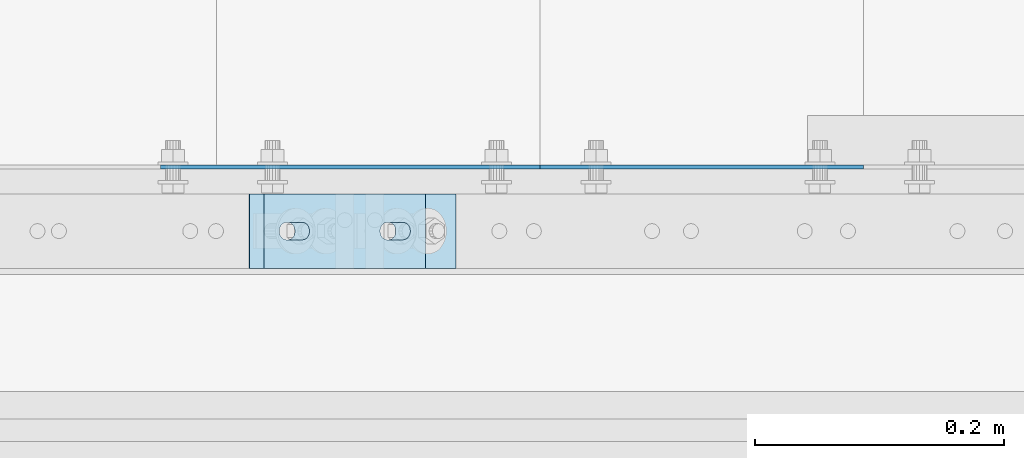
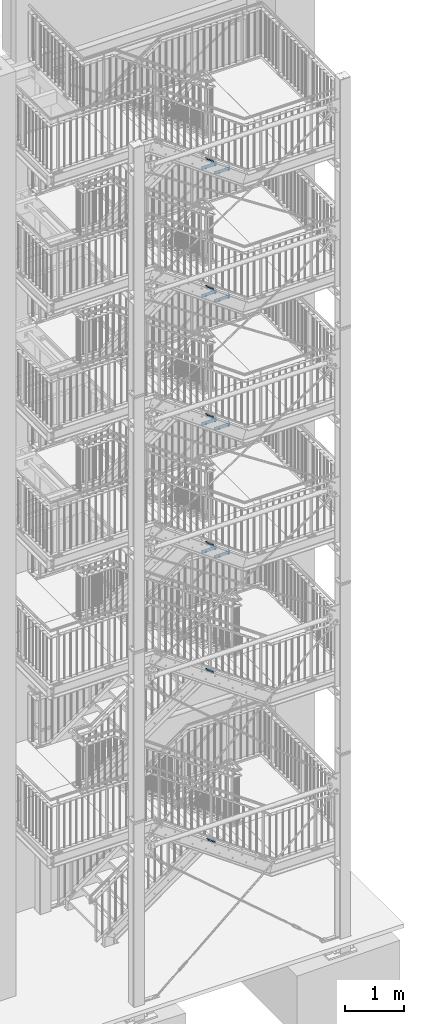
# One storey, part 167 of 817: 14 plates, 28 openings.
"""IFC2X3 building model written with IfcOpenShell, lengths in millimetres."""

from ifc_helpers import new_model, entity, si_unit, converted_unit, point, frame, frame_2d, origin, origin_with_axes, origin_2d_with_axis, place, context, project, spatial, polyline, circle_curve, line_curve, trimmed, segment, composite_curve, circle, outline, extrude, material, layer, layer_set, element, save


model = new_model("IFC2X3")

# Units and contexts
model_context = context("Model", 3, precision=1e-09, world=origin_with_axes())
ifc_project = project(units=[si_unit("LENGTHUNIT", "METRE", prefix="MILLI"), si_unit("AREAUNIT", "SQUARE_METRE"), si_unit("VOLUMEUNIT", "CUBIC_METRE"), converted_unit("PLANEANGLEUNIT", "DEGREE", entity("IfcPlaneAngleMeasure", 0.01745329), si_unit("PLANEANGLEUNIT", "RADIAN"), dimensions=[0, 0, 0, 0, 0, 0, 0])], contexts=[model_context])

# Site, building, storey
site_placement = place(None, origin_with_axes())
site = spatial("IfcSite", under=ifc_project, at=site_placement, Name="Cnopf'sche Kinderklinik", CompositionType="ELEMENT")
building_placement = place(site_placement, origin_with_axes())
building = spatial("IfcBuilding", under=site, at=building_placement, Name="Struktur 1", CompositionType="ELEMENT")
storey_placement = place(building_placement, origin_with_axes())
storey = spatial("IfcBuildingStorey", under=building, at=storey_placement, Name="Default Storey", CompositionType="ELEMENT", Elevation=0.0)

# Plate, openings
ifc_material = material(Name="S235JR")
ifc_layer_1 = layer(ifc_material, 3.0)
ifc_layer_set_1 = layer_set([ifc_layer_1], Name="S235JR")
plate_1_placement = place(None, frame((6536.713402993, 4576.736971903, 11680.7857145), z_axis=(0.0, 1.0, 0.0), x_axis=(0.0, 0.0, -1.0)))
plate_1 = element("IfcPlate", 1, at=plate_1_placement, inside=storey, material=ifc_layer_set_1, Name="Grate_Step#9", ObjectType="Grate_Step#9", context=model_context, shape_type="SweptSolid", body=[
    extrude(outline(polyline([(0.0, 0.0), (70.0, 0.0), (70.0, 275.0), (40.0, 305.0), (0.0, 305.0), (0.0, 0.0)])), origin_with_axes(), (0.0, 0.0, 1.0), 3.0),
])
opening_1_placement = place(plate_1_placement, frame((55.0, 215.0, 3.5), z_axis=(0.0, 0.0, -1.0), x_axis=(0.0, 1.0, 0.0)))
element("IfcOpeningElement", 2, at=opening_1_placement, cuts=plate_1, ObjectType="Opening", context=model_context, shape_type="SweptSolid", body=[
    extrude(outline(composite_curve([segment(trimmed(line_curve((-9.5, -7.001), (1.0, 0.0), 19.0), [point((-9.5, -7.001))], [point((9.5, -7.001))], True, "CARTESIAN"), True, "CONTINUOUS"), segment(trimmed(circle_curve(frame_2d((9.5, 0.0), x_axis=(1.0, 0.0)), 7.001), [point((9.5, -7.001))], [point((9.5, 7.001))], True, "CARTESIAN"), True, "CONTINUOUS"), segment(trimmed(line_curve((9.5, 7.001), (-1.0, 0.0), 19.0), [point((9.5, 7.001))], [point((-9.5, 7.001))], True, "CARTESIAN"), True, "CONTINUOUS"), segment(trimmed(circle_curve(frame_2d((-9.5, 0.0), x_axis=(1.0, 0.0)), 7.001), [point((-9.5, 7.001))], [point((-9.5, -7.001))], True, "CARTESIAN"), True, "CONTINUOUS")], self_intersect=False)), origin(), (0.0, 0.0, 1.0), 4.0),
])
opening_2_placement = place(plate_1_placement, frame((55.0, 35.0, 3.5), z_axis=(0.0, 0.0, -1.0), x_axis=(0.0, 1.0, 0.0)))
element("IfcOpeningElement", 3, at=opening_2_placement, cuts=plate_1, ObjectType="Opening", context=model_context, shape_type="SweptSolid", body=[
    extrude(circle(Radius=7.001, at=origin_2d_with_axis()), origin(), (0.0, 0.0, 1.0), 4.0),
])

plate_2_placement = place(None, frame((6796.713402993, 4576.736971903, 11493.1428574), z_axis=(0.0, 1.0, 0.0), x_axis=(0.0, 0.0, -1.0)))
plate_2 = element("IfcPlate", 4, at=plate_2_placement, inside=storey, material=ifc_layer_set_1, Name="Grate_Step#2", ObjectType="Grate_Step#2", context=model_context, shape_type="SweptSolid", body=[
    extrude(outline(polyline([(0.0, 0.0), (70.0, 0.0), (70.0, 275.0), (40.0, 305.0), (0.0, 305.0), (0.0, 0.0)])), origin_with_axes(), (0.0, 0.0, 1.0), 3.0),
])
opening_3_placement = place(plate_2_placement, frame((55.0, 35.0, 3.5), z_axis=(0.0, 0.0, -1.0), x_axis=(0.0, 1.0, 0.0)))
element("IfcOpeningElement", 5, at=opening_3_placement, cuts=plate_2, ObjectType="Opening", context=model_context, shape_type="SweptSolid", body=[
    extrude(circle(Radius=7.001, at=origin_2d_with_axis()), origin(), (0.0, 0.0, 1.0), 4.0),
])
opening_4_placement = place(plate_2_placement, frame((55.0, 215.0, 3.5), z_axis=(0.0, 0.0, -1.0), x_axis=(0.0, 1.0, 0.0)))
element("IfcOpeningElement", 6, at=opening_4_placement, cuts=plate_2, ObjectType="Opening", context=model_context, shape_type="SweptSolid", body=[
    extrude(outline(composite_curve([segment(trimmed(line_curve((-9.5, -7.001), (1.0, 0.0), 19.0), [point((-9.5, -7.001))], [point((9.5, -7.001))], True, "CARTESIAN"), True, "CONTINUOUS"), segment(trimmed(circle_curve(frame_2d((9.5, 0.0), x_axis=(1.0, 0.0)), 7.001), [point((9.5, -7.001))], [point((9.5, 7.001))], True, "CARTESIAN"), True, "CONTINUOUS"), segment(trimmed(line_curve((9.5, 7.001), (-1.0, 0.0), 19.0), [point((9.5, 7.001))], [point((-9.5, 7.001))], True, "CARTESIAN"), True, "CONTINUOUS"), segment(trimmed(circle_curve(frame_2d((-9.5, 0.0), x_axis=(1.0, 0.0)), 7.001), [point((-9.5, 7.001))], [point((-9.5, -7.001))], True, "CARTESIAN"), True, "CONTINUOUS")], self_intersect=False)), origin(), (0.0, 0.0, 1.0), 4.0),
])

plate_3_placement = place(None, frame((6796.713402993, 4576.736971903, 14124.7142858), z_axis=(0.0, 1.0, 0.0), x_axis=(0.0, 0.0, -1.0)))
plate_3 = element("IfcPlate", 7, at=plate_3_placement, inside=storey, material=ifc_layer_set_1, Name="Grate_Step#2", ObjectType="Grate_Step#2", context=model_context, shape_type="SweptSolid", body=[
    extrude(outline(polyline([(0.0, 0.0), (70.0, 0.0), (70.0, 275.0), (40.0, 305.0), (0.0, 305.0), (0.0, 0.0)])), origin_with_axes(), (0.0, 0.0, 1.0), 3.0),
])
opening_5_placement = place(plate_3_placement, frame((55.0, 35.0, 3.5), z_axis=(0.0, 0.0, -1.0), x_axis=(0.0, 1.0, 0.0)))
element("IfcOpeningElement", 8, at=opening_5_placement, cuts=plate_3, ObjectType="Opening", context=model_context, shape_type="SweptSolid", body=[
    extrude(circle(Radius=7.001, at=origin_2d_with_axis()), origin(), (0.0, 0.0, 1.0), 4.0),
])
opening_6_placement = place(plate_3_placement, frame((55.0, 215.0, 3.5), z_axis=(0.0, 0.0, -1.0), x_axis=(0.0, 1.0, 0.0)))
element("IfcOpeningElement", 9, at=opening_6_placement, cuts=plate_3, ObjectType="Opening", context=model_context, shape_type="SweptSolid", body=[
    extrude(outline(composite_curve([segment(trimmed(line_curve((-9.5, -7.001), (1.0, 0.0), 19.0), [point((-9.5, -7.001))], [point((9.5, -7.001))], True, "CARTESIAN"), True, "CONTINUOUS"), segment(trimmed(circle_curve(frame_2d((9.5, 0.0), x_axis=(1.0, 0.0)), 7.001), [point((9.5, -7.001))], [point((9.5, 7.001))], True, "CARTESIAN"), True, "CONTINUOUS"), segment(trimmed(line_curve((9.5, 7.001), (-1.0, 0.0), 19.0), [point((9.5, 7.001))], [point((-9.5, 7.001))], True, "CARTESIAN"), True, "CONTINUOUS"), segment(trimmed(circle_curve(frame_2d((-9.5, 0.0), x_axis=(1.0, 0.0)), 7.001), [point((-9.5, 7.001))], [point((-9.5, -7.001))], True, "CARTESIAN"), True, "CONTINUOUS")], self_intersect=False)), origin(), (0.0, 0.0, 1.0), 4.0),
])

plate_4_placement = place(None, frame((6536.713402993, 4576.736971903, 14312.9285715), z_axis=(0.0, 1.0, 0.0), x_axis=(0.0, 0.0, -1.0)))
plate_4 = element("IfcPlate", 10, at=plate_4_placement, inside=storey, material=ifc_layer_set_1, Name="Grate_Step#9", ObjectType="Grate_Step#9", context=model_context, shape_type="SweptSolid", body=[
    extrude(outline(polyline([(0.0, 0.0), (70.0, 0.0), (70.0, 275.0), (40.0, 305.0), (0.0, 305.0), (0.0, 0.0)])), origin_with_axes(), (0.0, 0.0, 1.0), 3.0),
])
opening_7_placement = place(plate_4_placement, frame((55.0, 215.0, 3.5), z_axis=(0.0, 0.0, -1.0), x_axis=(0.0, 1.0, 0.0)))
element("IfcOpeningElement", 11, at=opening_7_placement, cuts=plate_4, ObjectType="Opening", context=model_context, shape_type="SweptSolid", body=[
    extrude(outline(composite_curve([segment(trimmed(line_curve((-9.5, -7.001), (1.0, 0.0), 19.0), [point((-9.5, -7.001))], [point((9.5, -7.001))], True, "CARTESIAN"), True, "CONTINUOUS"), segment(trimmed(circle_curve(frame_2d((9.5, 0.0), x_axis=(1.0, 0.0)), 7.001), [point((9.5, -7.001))], [point((9.5, 7.001))], True, "CARTESIAN"), True, "CONTINUOUS"), segment(trimmed(line_curve((9.5, 7.001), (-1.0, 0.0), 19.0), [point((9.5, 7.001))], [point((-9.5, 7.001))], True, "CARTESIAN"), True, "CONTINUOUS"), segment(trimmed(circle_curve(frame_2d((-9.5, 0.0), x_axis=(1.0, 0.0)), 7.001), [point((-9.5, 7.001))], [point((-9.5, -7.001))], True, "CARTESIAN"), True, "CONTINUOUS")], self_intersect=False)), origin(), (0.0, 0.0, 1.0), 4.0),
])
opening_8_placement = place(plate_4_placement, frame((55.0, 35.0, 3.5), z_axis=(0.0, 0.0, -1.0), x_axis=(0.0, 1.0, 0.0)))
element("IfcOpeningElement", 12, at=opening_8_placement, cuts=plate_4, ObjectType="Opening", context=model_context, shape_type="SweptSolid", body=[
    extrude(circle(Radius=7.001, at=origin_2d_with_axis()), origin(), (0.0, 0.0, 1.0), 4.0),
])

plate_5_placement = place(None, frame((6796.713402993, 4576.736971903, 16751.1428574), z_axis=(0.0, 1.0, 0.0), x_axis=(0.0, 0.0, -1.0)))
plate_5 = element("IfcPlate", 13, at=plate_5_placement, inside=storey, material=ifc_layer_set_1, Name="Grate_Step#2", ObjectType="Grate_Step#2", context=model_context, shape_type="SweptSolid", body=[
    extrude(outline(polyline([(0.0, 0.0), (70.0, 0.0), (70.0, 275.0), (40.0, 305.0), (0.0, 305.0), (0.0, 0.0)])), origin_with_axes(), (0.0, 0.0, 1.0), 3.0),
])
opening_9_placement = place(plate_5_placement, frame((55.0, 215.0, 3.5), z_axis=(0.0, 0.0, -1.0), x_axis=(0.0, 1.0, 0.0)))
element("IfcOpeningElement", 14, at=opening_9_placement, cuts=plate_5, ObjectType="Opening", context=model_context, shape_type="SweptSolid", body=[
    extrude(outline(composite_curve([segment(trimmed(line_curve((-9.5, -7.001), (1.0, 0.0), 19.0), [point((-9.5, -7.001))], [point((9.5, -7.001))], True, "CARTESIAN"), True, "CONTINUOUS"), segment(trimmed(circle_curve(frame_2d((9.5, 0.0), x_axis=(1.0, 0.0)), 7.001), [point((9.5, -7.001))], [point((9.5, 7.001))], True, "CARTESIAN"), True, "CONTINUOUS"), segment(trimmed(line_curve((9.5, 7.001), (-1.0, 0.0), 19.0), [point((9.5, 7.001))], [point((-9.5, 7.001))], True, "CARTESIAN"), True, "CONTINUOUS"), segment(trimmed(circle_curve(frame_2d((-9.5, 0.0), x_axis=(1.0, 0.0)), 7.001), [point((-9.5, 7.001))], [point((-9.5, -7.001))], True, "CARTESIAN"), True, "CONTINUOUS")], self_intersect=False)), origin(), (0.0, 0.0, 1.0), 4.0),
])
opening_10_placement = place(plate_5_placement, frame((55.0, 35.0, 3.5), z_axis=(0.0, 0.0, -1.0), x_axis=(0.0, 1.0, 0.0)))
element("IfcOpeningElement", 15, at=opening_10_placement, cuts=plate_5, ObjectType="Opening", context=model_context, shape_type="SweptSolid", body=[
    extrude(circle(Radius=7.001, at=origin_2d_with_axis()), origin(), (0.0, 0.0, 1.0), 4.0),
])

plate_6_placement = place(None, frame((6536.713402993, 4576.736971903, 16938.2857145), z_axis=(0.0, 1.0, 0.0), x_axis=(0.0, 0.0, -1.0)))
plate_6 = element("IfcPlate", 16, at=plate_6_placement, inside=storey, material=ifc_layer_set_1, Name="Grate_Step#9", ObjectType="Grate_Step#9", context=model_context, shape_type="SweptSolid", body=[
    extrude(outline(polyline([(0.0, 0.0), (70.0, 0.0), (70.0, 275.0), (40.0, 305.0), (0.0, 305.0), (0.0, 0.0)])), origin_with_axes(), (0.0, 0.0, 1.0), 3.0),
])
opening_11_placement = place(plate_6_placement, frame((55.0, 35.0, 3.5), z_axis=(0.0, 0.0, -1.0), x_axis=(0.0, 1.0, 0.0)))
element("IfcOpeningElement", 17, at=opening_11_placement, cuts=plate_6, ObjectType="Opening", context=model_context, shape_type="SweptSolid", body=[
    extrude(circle(Radius=7.001, at=origin_2d_with_axis()), origin(), (0.0, 0.0, 1.0), 4.0),
])
opening_12_placement = place(plate_6_placement, frame((55.0, 215.0, 3.5), z_axis=(0.0, 0.0, -1.0), x_axis=(0.0, 1.0, 0.0)))
element("IfcOpeningElement", 18, at=opening_12_placement, cuts=plate_6, ObjectType="Opening", context=model_context, shape_type="SweptSolid", body=[
    extrude(outline(composite_curve([segment(trimmed(line_curve((-9.5, -7.001), (1.0, 0.0), 19.0), [point((-9.5, -7.001))], [point((9.5, -7.001))], True, "CARTESIAN"), True, "CONTINUOUS"), segment(trimmed(circle_curve(frame_2d((9.5, 0.0), x_axis=(1.0, 0.0)), 7.001), [point((9.5, -7.001))], [point((9.5, 7.001))], True, "CARTESIAN"), True, "CONTINUOUS"), segment(trimmed(line_curve((9.5, 7.001), (-1.0, 0.0), 19.0), [point((9.5, 7.001))], [point((-9.5, 7.001))], True, "CARTESIAN"), True, "CONTINUOUS"), segment(trimmed(circle_curve(frame_2d((-9.5, 0.0), x_axis=(1.0, 0.0)), 7.001), [point((-9.5, 7.001))], [point((-9.5, -7.001))], True, "CARTESIAN"), True, "CONTINUOUS")], self_intersect=False)), origin(), (0.0, 0.0, 1.0), 4.0),
])

plate_7_placement = place(None, frame((6796.713402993, 4576.736971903, 8864.0), z_axis=(0.0, 1.0, 0.0), x_axis=(0.0, 0.0, -1.0)))
plate_7 = element("IfcPlate", 19, at=plate_7_placement, inside=storey, material=ifc_layer_set_1, Name="Grate_Step#2", ObjectType="Grate_Step#2", context=model_context, shape_type="SweptSolid", body=[
    extrude(outline(polyline([(0.0, 0.0), (70.0, 0.0), (70.0, 275.0), (40.0, 305.0), (0.0, 305.0), (0.0, 0.0)])), origin_with_axes(), (0.0, 0.0, 1.0), 3.0),
])
opening_13_placement = place(plate_7_placement, frame((55.0, 215.0, 3.5), z_axis=(0.0, 0.0, -1.0), x_axis=(0.0, 1.0, 0.0)))
element("IfcOpeningElement", 20, at=opening_13_placement, cuts=plate_7, ObjectType="Opening", context=model_context, shape_type="SweptSolid", body=[
    extrude(outline(composite_curve([segment(trimmed(line_curve((-9.5, -7.001), (1.0, 0.0), 19.0), [point((-9.5, -7.001))], [point((9.5, -7.001))], True, "CARTESIAN"), True, "CONTINUOUS"), segment(trimmed(circle_curve(frame_2d((9.5, 0.0), x_axis=(1.0, 0.0)), 7.001), [point((9.5, -7.001))], [point((9.5, 7.001))], True, "CARTESIAN"), True, "CONTINUOUS"), segment(trimmed(line_curve((9.5, 7.001), (-1.0, 0.0), 19.0), [point((9.5, 7.001))], [point((-9.5, 7.001))], True, "CARTESIAN"), True, "CONTINUOUS"), segment(trimmed(circle_curve(frame_2d((-9.5, 0.0), x_axis=(1.0, 0.0)), 7.001), [point((-9.5, 7.001))], [point((-9.5, -7.001))], True, "CARTESIAN"), True, "CONTINUOUS")], self_intersect=False)), origin(), (0.0, 0.0, 1.0), 4.0),
])
opening_14_placement = place(plate_7_placement, frame((55.0, 35.0, 3.5), z_axis=(0.0, 0.0, -1.0), x_axis=(0.0, 1.0, 0.0)))
element("IfcOpeningElement", 21, at=opening_14_placement, cuts=plate_7, ObjectType="Opening", context=model_context, shape_type="SweptSolid", body=[
    extrude(circle(Radius=7.001, at=origin_2d_with_axis()), origin(), (0.0, 0.0, 1.0), 4.0),
])

plate_8_placement = place(None, frame((6536.713402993, 4576.736971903, 9052.0), z_axis=(0.0, 1.0, 0.0), x_axis=(0.0, 0.0, -1.0)))
plate_8 = element("IfcPlate", 22, at=plate_8_placement, inside=storey, material=ifc_layer_set_1, Name="Grate_Step#9", ObjectType="Grate_Step#9", context=model_context, shape_type="SweptSolid", body=[
    extrude(outline(polyline([(0.0, 0.0), (70.0, 0.0), (70.0, 275.0), (40.0, 305.0), (0.0, 305.0), (0.0, 0.0)])), origin_with_axes(), (0.0, 0.0, 1.0), 3.0),
])
opening_15_placement = place(plate_8_placement, frame((55.0, 215.0, 3.5), z_axis=(0.0, 0.0, -1.0), x_axis=(0.0, 1.0, 0.0)))
element("IfcOpeningElement", 23, at=opening_15_placement, cuts=plate_8, ObjectType="Opening", context=model_context, shape_type="SweptSolid", body=[
    extrude(outline(composite_curve([segment(trimmed(line_curve((-9.5, -7.001), (1.0, 0.0), 19.0), [point((-9.5, -7.001))], [point((9.5, -7.001))], True, "CARTESIAN"), True, "CONTINUOUS"), segment(trimmed(circle_curve(frame_2d((9.5, 0.0), x_axis=(1.0, 0.0)), 7.001), [point((9.5, -7.001))], [point((9.5, 7.001))], True, "CARTESIAN"), True, "CONTINUOUS"), segment(trimmed(line_curve((9.5, 7.001), (-1.0, 0.0), 19.0), [point((9.5, 7.001))], [point((-9.5, 7.001))], True, "CARTESIAN"), True, "CONTINUOUS"), segment(trimmed(circle_curve(frame_2d((-9.5, 0.0), x_axis=(1.0, 0.0)), 7.001), [point((-9.5, 7.001))], [point((-9.5, -7.001))], True, "CARTESIAN"), True, "CONTINUOUS")], self_intersect=False)), origin(), (0.0, 0.0, 1.0), 4.0),
])
opening_16_placement = place(plate_8_placement, frame((55.0, 35.0, 3.5), z_axis=(0.0, 0.0, -1.0), x_axis=(0.0, 1.0, 0.0)))
element("IfcOpeningElement", 24, at=opening_16_placement, cuts=plate_8, ObjectType="Opening", context=model_context, shape_type="SweptSolid", body=[
    extrude(circle(Radius=7.001, at=origin_2d_with_axis()), origin(), (0.0, 0.0, 1.0), 4.0),
])

ifc_layer_2 = layer(ifc_material, 20.0)
ifc_layer_set_2 = layer_set([ifc_layer_2], Name="S235JR")
plate_9_placement = place(None, frame((6327.345176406, 4496.736971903, 3110.531994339), z_axis=(0.579973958, 0.0, 0.814635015), x_axis=(0.814635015, 0.0, -0.579973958)))
plate_9 = element("IfcPlate", 25, at=plate_9_placement, inside=storey, material=ifc_layer_set_2, Name="Plate#509", ObjectType="Plate#509", context=model_context, shape_type="SweptSolid", body=[
    extrude(outline(polyline([(0.0, 0.0), (160.0, 0.0), (160.0, 60.0), (0.0, 60.0), (0.0, 0.0)])), origin_with_axes(), (0.0, 0.0, 1.0), 20.0),
])
opening_17_placement = place(plate_9_placement, frame((38.0, 37.001, 20.5), z_axis=(0.0, 0.0, 1.0), x_axis=(-1.0, 0.0, 0.0)))
element("IfcOpeningElement", 26, at=opening_17_placement, cuts=plate_9, ObjectType="Opening", context=model_context, shape_type="SweptSolid", body=[
    extrude(outline(composite_curve([segment(trimmed(line_curve((0.0, 0.0), (1.0, 0.0), 16.0), [point((0.0, 0.0))], [point((16.0, 0.0))], True, "CARTESIAN"), True, "CONTINUOUS"), segment(trimmed(circle_curve(frame_2d((16.0, 7.001), x_axis=(1.0, 0.0)), 7.001), [point((16.0, 0.0))], [point((16.0, 14.002))], True, "CARTESIAN"), True, "CONTINUOUS"), segment(trimmed(line_curve((16.0, 14.002), (-1.0, 0.0), 16.0), [point((16.0, 14.002))], [point((0.0, 14.002))], True, "CARTESIAN"), True, "CONTINUOUS"), segment(trimmed(circle_curve(frame_2d((0.0, 7.001), x_axis=(1.0, 0.0)), 7.001), [point((0.0, 14.002))], [point((0.0, 0.0))], True, "CARTESIAN"), True, "CONTINUOUS")], self_intersect=False)), origin(), (0.0, 0.0, -1.0), 21.0),
])
opening_18_placement = place(plate_9_placement, frame((138.0, 37.001, 20.5), z_axis=(0.0, 0.0, 1.0), x_axis=(-1.0, 0.0, 0.0)))
element("IfcOpeningElement", 27, at=opening_18_placement, cuts=plate_9, ObjectType="Opening", context=model_context, shape_type="SweptSolid", body=[
    extrude(outline(composite_curve([segment(trimmed(line_curve((0.0, 0.0), (1.0, 0.0), 16.0), [point((0.0, 0.0))], [point((16.0, 0.0))], True, "CARTESIAN"), True, "CONTINUOUS"), segment(trimmed(circle_curve(frame_2d((16.0, 7.001), x_axis=(1.0, 0.0)), 7.001), [point((16.0, 0.0))], [point((16.0, 14.002))], True, "CARTESIAN"), True, "CONTINUOUS"), segment(trimmed(line_curve((16.0, 14.002), (-1.0, 0.0), 16.0), [point((16.0, 14.002))], [point((0.0, 14.002))], True, "CARTESIAN"), True, "CONTINUOUS"), segment(trimmed(circle_curve(frame_2d((0.0, 7.001), x_axis=(1.0, 0.0)), 7.001), [point((0.0, 14.002))], [point((0.0, 0.0))], True, "CARTESIAN"), True, "CONTINUOUS")], self_intersect=False)), origin(), (0.0, 0.0, -1.0), 21.0),
])

plate_10_placement = place(None, frame((6302.774261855, 4496.736971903, 6610.520371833), z_axis=(0.57512827, 0.0, 0.818063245), x_axis=(0.818063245, 0.0, -0.57512827)))
plate_10 = element("IfcPlate", 28, at=plate_10_placement, inside=storey, material=ifc_layer_set_2, Name="Plate#510", ObjectType="Plate#510", context=model_context, shape_type="SweptSolid", body=[
    extrude(outline(polyline([(0.0, 0.0), (160.0, 0.0), (160.0, 60.0), (0.0, 60.0), (0.0, 0.0)])), origin_with_axes(), (0.0, 0.0, 1.0), 20.0),
])
opening_19_placement = place(plate_10_placement, frame((38.0, 37.001, 20.5), z_axis=(0.0, 0.0, 1.0), x_axis=(-1.0, 0.0, 0.0)))
element("IfcOpeningElement", 29, at=opening_19_placement, cuts=plate_10, ObjectType="Opening", context=model_context, shape_type="SweptSolid", body=[
    extrude(outline(composite_curve([segment(trimmed(line_curve((0.0, 0.0), (1.0, 0.0), 16.0), [point((0.0, 0.0))], [point((16.0, 0.0))], True, "CARTESIAN"), True, "CONTINUOUS"), segment(trimmed(circle_curve(frame_2d((16.0, 7.001), x_axis=(1.0, 0.0)), 7.001), [point((16.0, 0.0))], [point((16.0, 14.002))], True, "CARTESIAN"), True, "CONTINUOUS"), segment(trimmed(line_curve((16.0, 14.002), (-1.0, 0.0), 16.0), [point((16.0, 14.002))], [point((0.0, 14.002))], True, "CARTESIAN"), True, "CONTINUOUS"), segment(trimmed(circle_curve(frame_2d((0.0, 7.001), x_axis=(1.0, 0.0)), 7.001), [point((0.0, 14.002))], [point((0.0, 0.0))], True, "CARTESIAN"), True, "CONTINUOUS")], self_intersect=False)), origin(), (0.0, 0.0, -1.0), 21.0),
])
opening_20_placement = place(plate_10_placement, frame((138.0, 37.001, 20.5), z_axis=(0.0, 0.0, 1.0), x_axis=(-1.0, 0.0, 0.0)))
element("IfcOpeningElement", 30, at=opening_20_placement, cuts=plate_10, ObjectType="Opening", context=model_context, shape_type="SweptSolid", body=[
    extrude(outline(composite_curve([segment(trimmed(line_curve((0.0, 0.0), (1.0, 0.0), 16.0), [point((0.0, 0.0))], [point((16.0, 0.0))], True, "CARTESIAN"), True, "CONTINUOUS"), segment(trimmed(circle_curve(frame_2d((16.0, 7.001), x_axis=(1.0, 0.0)), 7.001), [point((16.0, 0.0))], [point((16.0, 14.002))], True, "CARTESIAN"), True, "CONTINUOUS"), segment(trimmed(line_curve((16.0, 14.002), (-1.0, 0.0), 16.0), [point((16.0, 14.002))], [point((0.0, 14.002))], True, "CARTESIAN"), True, "CONTINUOUS"), segment(trimmed(circle_curve(frame_2d((0.0, 7.001), x_axis=(1.0, 0.0)), 7.001), [point((0.0, 14.002))], [point((0.0, 0.0))], True, "CARTESIAN"), True, "CONTINUOUS")], self_intersect=False)), origin(), (0.0, 0.0, -1.0), 21.0),
])

plate_11_placement = place(None, frame((6303.269357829, 4496.736971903, 9220.798001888), z_axis=(0.585945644, 0.0, 0.810350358), x_axis=(0.810350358, 0.0, -0.585945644)))
plate_11 = element("IfcPlate", 31, at=plate_11_placement, inside=storey, material=ifc_layer_set_2, Name="Plate#510", ObjectType="Plate#510", context=model_context, shape_type="SweptSolid", body=[
    extrude(outline(polyline([(0.0, 0.0), (160.0, 0.0), (160.0, 60.0), (0.0, 60.0), (0.0, 0.0)])), origin_with_axes(), (0.0, 0.0, 1.0), 20.0),
])
opening_21_placement = place(plate_11_placement, frame((38.0, 37.001, 20.5), z_axis=(0.0, 0.0, 1.0), x_axis=(-1.0, 0.0, 0.0)))
element("IfcOpeningElement", 32, at=opening_21_placement, cuts=plate_11, ObjectType="Opening", context=model_context, shape_type="SweptSolid", body=[
    extrude(outline(composite_curve([segment(trimmed(line_curve((0.0, 0.0), (1.0, 0.0), 16.0), [point((0.0, 0.0))], [point((16.0, 0.0))], True, "CARTESIAN"), True, "CONTINUOUS"), segment(trimmed(circle_curve(frame_2d((16.0, 7.001), x_axis=(1.0, 0.0)), 7.001), [point((16.0, 0.0))], [point((16.0, 14.002))], True, "CARTESIAN"), True, "CONTINUOUS"), segment(trimmed(line_curve((16.0, 14.002), (-1.0, 0.0), 16.0), [point((16.0, 14.002))], [point((0.0, 14.002))], True, "CARTESIAN"), True, "CONTINUOUS"), segment(trimmed(circle_curve(frame_2d((0.0, 7.001), x_axis=(1.0, 0.0)), 7.001), [point((0.0, 14.002))], [point((0.0, 0.0))], True, "CARTESIAN"), True, "CONTINUOUS")], self_intersect=False)), origin(), (0.0, 0.0, -1.0), 21.0),
])
opening_22_placement = place(plate_11_placement, frame((138.0, 37.001, 20.5), z_axis=(0.0, 0.0, 1.0), x_axis=(-1.0, 0.0, 0.0)))
element("IfcOpeningElement", 33, at=opening_22_placement, cuts=plate_11, ObjectType="Opening", context=model_context, shape_type="SweptSolid", body=[
    extrude(outline(composite_curve([segment(trimmed(line_curve((0.0, 0.0), (1.0, 0.0), 16.0), [point((0.0, 0.0))], [point((16.0, 0.0))], True, "CARTESIAN"), True, "CONTINUOUS"), segment(trimmed(circle_curve(frame_2d((16.0, 7.001), x_axis=(1.0, 0.0)), 7.001), [point((16.0, 0.0))], [point((16.0, 14.002))], True, "CARTESIAN"), True, "CONTINUOUS"), segment(trimmed(line_curve((16.0, 14.002), (-1.0, 0.0), 16.0), [point((16.0, 14.002))], [point((0.0, 14.002))], True, "CARTESIAN"), True, "CONTINUOUS"), segment(trimmed(circle_curve(frame_2d((0.0, 7.001), x_axis=(1.0, 0.0)), 7.001), [point((0.0, 14.002))], [point((0.0, 0.0))], True, "CARTESIAN"), True, "CONTINUOUS")], self_intersect=False)), origin(), (0.0, 0.0, -1.0), 21.0),
])

plate_12_placement = place(None, frame((6303.224338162, 4496.736971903, 11849.295542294), z_axis=(0.585213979, 0.0, 0.810878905), x_axis=(0.810878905, 0.0, -0.585213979)))
plate_12 = element("IfcPlate", 34, at=plate_12_placement, inside=storey, material=ifc_layer_set_2, Name="Plate#510", ObjectType="Plate#510", context=model_context, shape_type="SweptSolid", body=[
    extrude(outline(polyline([(0.0, 0.0), (160.0, 0.0), (160.0, 60.0), (0.0, 60.0), (0.0, 0.0)])), origin_with_axes(), (0.0, 0.0, 1.0), 20.0),
])
opening_23_placement = place(plate_12_placement, frame((38.0, 37.001, 20.5), z_axis=(0.0, 0.0, 1.0), x_axis=(-1.0, 0.0, 0.0)))
element("IfcOpeningElement", 35, at=opening_23_placement, cuts=plate_12, ObjectType="Opening", context=model_context, shape_type="SweptSolid", body=[
    extrude(outline(composite_curve([segment(trimmed(line_curve((0.0, 0.0), (1.0, 0.0), 16.0), [point((0.0, 0.0))], [point((16.0, 0.0))], True, "CARTESIAN"), True, "CONTINUOUS"), segment(trimmed(circle_curve(frame_2d((16.0, 7.001), x_axis=(1.0, 0.0)), 7.001), [point((16.0, 0.0))], [point((16.0, 14.002))], True, "CARTESIAN"), True, "CONTINUOUS"), segment(trimmed(line_curve((16.0, 14.002), (-1.0, 0.0), 16.0), [point((16.0, 14.002))], [point((0.0, 14.002))], True, "CARTESIAN"), True, "CONTINUOUS"), segment(trimmed(circle_curve(frame_2d((0.0, 7.001), x_axis=(1.0, 0.0)), 7.001), [point((0.0, 14.002))], [point((0.0, 0.0))], True, "CARTESIAN"), True, "CONTINUOUS")], self_intersect=False)), origin(), (0.0, 0.0, -1.0), 21.0),
])
opening_24_placement = place(plate_12_placement, frame((138.0, 37.001, 20.5), z_axis=(0.0, 0.0, 1.0), x_axis=(-1.0, 0.0, 0.0)))
element("IfcOpeningElement", 36, at=opening_24_placement, cuts=plate_12, ObjectType="Opening", context=model_context, shape_type="SweptSolid", body=[
    extrude(outline(composite_curve([segment(trimmed(line_curve((0.0, 0.0), (1.0, 0.0), 16.0), [point((0.0, 0.0))], [point((16.0, 0.0))], True, "CARTESIAN"), True, "CONTINUOUS"), segment(trimmed(circle_curve(frame_2d((16.0, 7.001), x_axis=(1.0, 0.0)), 7.001), [point((16.0, 0.0))], [point((16.0, 14.002))], True, "CARTESIAN"), True, "CONTINUOUS"), segment(trimmed(line_curve((16.0, 14.002), (-1.0, 0.0), 16.0), [point((16.0, 14.002))], [point((0.0, 14.002))], True, "CARTESIAN"), True, "CONTINUOUS"), segment(trimmed(circle_curve(frame_2d((0.0, 7.001), x_axis=(1.0, 0.0)), 7.001), [point((0.0, 14.002))], [point((0.0, 0.0))], True, "CARTESIAN"), True, "CONTINUOUS")], self_intersect=False)), origin(), (0.0, 0.0, -1.0), 21.0),
])

plate_13_placement = place(None, frame((6303.296368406, 4496.736971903, 14481.899419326), z_axis=(0.586383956, 0.0, 0.810033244), x_axis=(0.810033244, 0.0, -0.586383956)))
plate_13 = element("IfcPlate", 37, at=plate_13_placement, inside=storey, material=ifc_layer_set_2, Name="Plate#510", ObjectType="Plate#510", context=model_context, shape_type="SweptSolid", body=[
    extrude(outline(polyline([(0.0, 0.0), (160.0, 0.0), (160.0, 60.0), (0.0, 60.0), (0.0, 0.0)])), origin_with_axes(), (0.0, 0.0, 1.0), 20.0),
])
opening_25_placement = place(plate_13_placement, frame((38.0, 37.001, 20.5), z_axis=(0.0, 0.0, 1.0), x_axis=(-1.0, 0.0, 0.0)))
element("IfcOpeningElement", 38, at=opening_25_placement, cuts=plate_13, ObjectType="Opening", context=model_context, shape_type="SweptSolid", body=[
    extrude(outline(composite_curve([segment(trimmed(line_curve((0.0, 0.0), (1.0, 0.0), 16.0), [point((0.0, 0.0))], [point((16.0, 0.0))], True, "CARTESIAN"), True, "CONTINUOUS"), segment(trimmed(circle_curve(frame_2d((16.0, 7.001), x_axis=(1.0, 0.0)), 7.001), [point((16.0, 0.0))], [point((16.0, 14.002))], True, "CARTESIAN"), True, "CONTINUOUS"), segment(trimmed(line_curve((16.0, 14.002), (-1.0, 0.0), 16.0), [point((16.0, 14.002))], [point((0.0, 14.002))], True, "CARTESIAN"), True, "CONTINUOUS"), segment(trimmed(circle_curve(frame_2d((0.0, 7.001), x_axis=(1.0, 0.0)), 7.001), [point((0.0, 14.002))], [point((0.0, 0.0))], True, "CARTESIAN"), True, "CONTINUOUS")], self_intersect=False)), origin(), (0.0, 0.0, -1.0), 21.0),
])
opening_26_placement = place(plate_13_placement, frame((138.0, 37.001, 20.5), z_axis=(0.0, 0.0, 1.0), x_axis=(-1.0, 0.0, 0.0)))
element("IfcOpeningElement", 39, at=opening_26_placement, cuts=plate_13, ObjectType="Opening", context=model_context, shape_type="SweptSolid", body=[
    extrude(outline(composite_curve([segment(trimmed(line_curve((0.0, 0.0), (1.0, 0.0), 16.0), [point((0.0, 0.0))], [point((16.0, 0.0))], True, "CARTESIAN"), True, "CONTINUOUS"), segment(trimmed(circle_curve(frame_2d((16.0, 7.001), x_axis=(1.0, 0.0)), 7.001), [point((16.0, 0.0))], [point((16.0, 14.002))], True, "CARTESIAN"), True, "CONTINUOUS"), segment(trimmed(line_curve((16.0, 14.002), (-1.0, 0.0), 16.0), [point((16.0, 14.002))], [point((0.0, 14.002))], True, "CARTESIAN"), True, "CONTINUOUS"), segment(trimmed(circle_curve(frame_2d((0.0, 7.001), x_axis=(1.0, 0.0)), 7.001), [point((0.0, 14.002))], [point((0.0, 0.0))], True, "CARTESIAN"), True, "CONTINUOUS")], self_intersect=False)), origin(), (0.0, 0.0, -1.0), 21.0),
])

plate_14_placement = place(None, frame((6303.161306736, 4496.736971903, 17106.391893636), z_axis=(0.584187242, 0.0, 0.811618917), x_axis=(0.811618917, 0.0, -0.584187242)))
plate_14 = element("IfcPlate", 40, at=plate_14_placement, inside=storey, material=ifc_layer_set_2, Name="Plate#510", ObjectType="Plate#510", context=model_context, shape_type="SweptSolid", body=[
    extrude(outline(polyline([(0.0, 0.0), (160.0, 0.0), (160.0, 60.0), (0.0, 60.0), (0.0, 0.0)])), origin_with_axes(), (0.0, 0.0, 1.0), 20.0),
])
opening_27_placement = place(plate_14_placement, frame((38.0, 37.001, 20.5), z_axis=(0.0, 0.0, 1.0), x_axis=(-1.0, 0.0, 0.0)))
element("IfcOpeningElement", 41, at=opening_27_placement, cuts=plate_14, ObjectType="Opening", context=model_context, shape_type="SweptSolid", body=[
    extrude(outline(composite_curve([segment(trimmed(line_curve((0.0, 0.0), (1.0, 0.0), 16.0), [point((0.0, 0.0))], [point((16.0, 0.0))], True, "CARTESIAN"), True, "CONTINUOUS"), segment(trimmed(circle_curve(frame_2d((16.0, 7.001), x_axis=(1.0, 0.0)), 7.001), [point((16.0, 0.0))], [point((16.0, 14.002))], True, "CARTESIAN"), True, "CONTINUOUS"), segment(trimmed(line_curve((16.0, 14.002), (-1.0, 0.0), 16.0), [point((16.0, 14.002))], [point((0.0, 14.002))], True, "CARTESIAN"), True, "CONTINUOUS"), segment(trimmed(circle_curve(frame_2d((0.0, 7.001), x_axis=(1.0, 0.0)), 7.001), [point((0.0, 14.002))], [point((0.0, 0.0))], True, "CARTESIAN"), True, "CONTINUOUS")], self_intersect=False)), origin(), (0.0, 0.0, -1.0), 21.0),
])
opening_28_placement = place(plate_14_placement, frame((138.0, 37.001, 20.5), z_axis=(0.0, 0.0, 1.0), x_axis=(-1.0, 0.0, 0.0)))
element("IfcOpeningElement", 42, at=opening_28_placement, cuts=plate_14, ObjectType="Opening", context=model_context, shape_type="SweptSolid", body=[
    extrude(outline(composite_curve([segment(trimmed(line_curve((0.0, 0.0), (1.0, 0.0), 16.0), [point((0.0, 0.0))], [point((16.0, 0.0))], True, "CARTESIAN"), True, "CONTINUOUS"), segment(trimmed(circle_curve(frame_2d((16.0, 7.001), x_axis=(1.0, 0.0)), 7.001), [point((16.0, 0.0))], [point((16.0, 14.002))], True, "CARTESIAN"), True, "CONTINUOUS"), segment(trimmed(line_curve((16.0, 14.002), (-1.0, 0.0), 16.0), [point((16.0, 14.002))], [point((0.0, 14.002))], True, "CARTESIAN"), True, "CONTINUOUS"), segment(trimmed(circle_curve(frame_2d((0.0, 7.001), x_axis=(1.0, 0.0)), 7.001), [point((0.0, 14.002))], [point((0.0, 0.0))], True, "CARTESIAN"), True, "CONTINUOUS")], self_intersect=False)), origin(), (0.0, 0.0, -1.0), 21.0),
])

save(model, "model.ifc")
